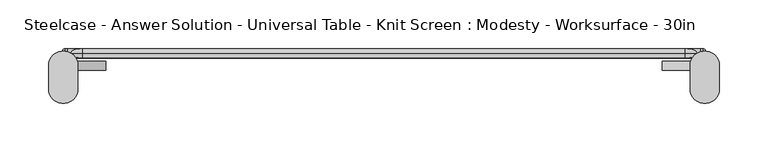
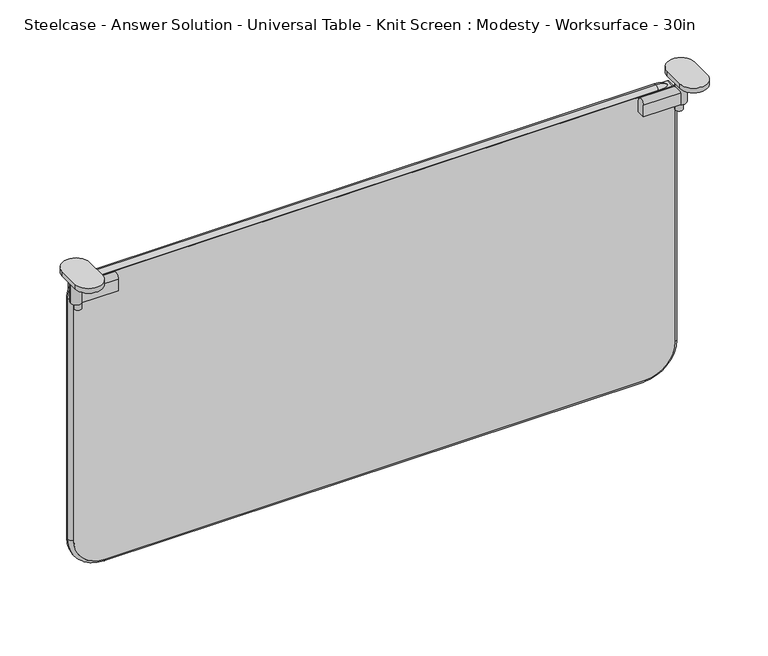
"""IFC4 building model written with IfcOpenShell, lengths in millimetres: furniture geometry, Steelcase - Answer Solution - Universal Table - Knit Screen : Modesty - Worksurface - 30in."""

import ifcopenshell
import ifcopenshell.guid

model = None  # the IFC model being written
_history = None  # IfcOwnerHistory: only IFC2X3 demands one
_inside = {}  # id of a spatial element -> (the spatial element, [elements in it])
_under = {}  # id of a project, library or spatial element -> (it, [spatial elements below it])
_declared = {}  # id of a project -> (the project, [libraries it declares])
_typed = {}  # id of a type object -> (the type object, [elements of that type])
_made_of = {}  # id of a material, layer set ... -> (it, [elements and type objects made of it])


def new_model(schema):
    """Start an empty IFC model of exactly this schema.

    Asked for "IFC4X3", IfcOpenShell would pick the latest addendum, in which some entities
    have other attributes; the version numbers below select the first issue.
    IFC2X3 requires an IfcOwnerHistory on every rooted entity: one is made here for all.
    """
    global model, _history
    if schema == "IFC4X3":
        model = ifcopenshell.file(schema_version=(4, 3, 0, 0))
    else:
        model = ifcopenshell.file(schema=schema)
    _inside.clear()
    _under.clear()
    _declared.clear()
    _typed.clear()
    _made_of.clear()
    _history = None
    if model.schema == "IFC2X3":
        org = make("IfcOrganization", Name="unknown")
        user = make(
            "IfcPersonAndOrganization",
            ThePerson=make("IfcPerson", FamilyName="unknown"),
            TheOrganization=org,
        )
        app = make(
            "IfcApplication",
            ApplicationDeveloper=org,
            Version="unknown",
            ApplicationFullName="unknown",
            ApplicationIdentifier="unknown",
        )
        _history = make(
            "IfcOwnerHistory",
            OwningUser=user,
            OwningApplication=app,
            ChangeAction="ADDED",
            CreationDate=0,
        )
    return model


def make(cls, **values):
    """One entity of the class cls with the attributes given. An attribute that is None is left unset."""
    return model.create_entity(
        cls, **{name: value for name, value in values.items() if value is not None}
    )


def rooted(cls, **values):
    """An entity with a GlobalId (a new one), such as an element, a storey or a relation."""
    return make(cls, GlobalId=ifcopenshell.guid.new(), OwnerHistory=_history, **values)


def si_unit(unit_type, name, prefix=None):
    """IfcSIUnit, for example si_unit("LENGTHUNIT", "METRE", prefix="MILLI")."""
    return make("IfcSIUnit", UnitType=unit_type, Prefix=prefix, Name=name)


def assignment(units):
    """IfcUnitAssignment: the units of a project."""
    return None if units is None else make("IfcUnitAssignment", Units=units)


def point(xyz):
    """IfcCartesianPoint."""
    return None if xyz is None else make("IfcCartesianPoint", Coordinates=xyz)


def direction(xyz):
    """IfcDirection."""
    return None if xyz is None else make("IfcDirection", DirectionRatios=xyz)


def frame(location, z_axis=None, x_axis=None):
    """IfcAxis2Placement3D, a coordinate frame: its origin and axes. An axis left out is left unset."""
    return make(
        "IfcAxis2Placement3D",
        Location=point(location),
        Axis=direction(z_axis),
        RefDirection=direction(x_axis),
    )


def frame_2d(location, x_axis=None):
    """IfcAxis2Placement2D, a coordinate frame in the plane: its origin and x axis."""
    return make(
        "IfcAxis2Placement2D", Location=point(location), RefDirection=direction(x_axis)
    )


def origin():
    """The frame at (0, 0, 0) with its axes left unset."""
    return frame((0.0, 0.0, 0.0))


def place(relative_to, where):
    """IfcLocalPlacement: puts the frame where relative to a parent placement (None: the world)."""
    return make(
        "IfcLocalPlacement", PlacementRelTo=relative_to, RelativePlacement=where
    )


def context(
    kind, dimensions, precision=None, world=None, true_north=None, identifier=None
):
    """IfcGeometricRepresentationContext, for example the 3D "Model" context."""
    return make(
        "IfcGeometricRepresentationContext",
        ContextIdentifier=identifier,
        ContextType=kind,
        CoordinateSpaceDimension=dimensions,
        Precision=precision,
        WorldCoordinateSystem=world,
        TrueNorth=true_north,
    )


def project(units=None, contexts=None):
    """IfcProject with its units and contexts."""
    return rooted(
        "IfcProject",
        Name="project",
        RepresentationContexts=contexts,
        UnitsInContext=assignment(units),
    )


def spatial(cls, under=None, at=None, **own):
    """A site, building, storey or space (cls), placed at a placement, below another one or the project."""
    s = rooted(cls, ObjectPlacement=at, **own)
    if under is not None:
        _under.setdefault(under.id(), (under, []))[1].append(s)
    return s


def polyline(points):
    """IfcPolyline through the points."""
    return make("IfcPolyline", Points=[point(p) for p in points])


def circle_curve(where, radius):
    """IfcCircle in the frame where."""
    return make("IfcCircle", Position=where, Radius=radius)


def ellipse_curve(where, semi_axis1, semi_axis2):
    """IfcEllipse in the frame where."""
    return make(
        "IfcEllipse", Position=where, SemiAxis1=semi_axis1, SemiAxis2=semi_axis2
    )


def trimmed(basis, trim1, trim2, sense, master):
    """IfcTrimmedCurve: the piece of a basis curve between two trims."""
    return make(
        "IfcTrimmedCurve",
        BasisCurve=basis,
        Trim1=trim1,
        Trim2=trim2,
        SenseAgreement=sense,
        MasterRepresentation=master,
    )


def segment(curve, same_sense, transition):
    """IfcCompositeCurveSegment."""
    return make(
        "IfcCompositeCurveSegment",
        Transition=transition,
        SameSense=same_sense,
        ParentCurve=curve,
    )


def composite_curve(segments, self_intersect=None):
    """IfcCompositeCurve: segments joined end to end."""
    return make("IfcCompositeCurve", Segments=segments, SelfIntersect=self_intersect)


def outline(outer, holes=None, kind="AREA"):
    """IfcArbitraryClosedProfileDef: a profile drawn as a closed curve; with holes, ...WithVoids."""
    if holes is None:
        return make("IfcArbitraryClosedProfileDef", ProfileType=kind, OuterCurve=outer)
    return make(
        "IfcArbitraryProfileDefWithVoids",
        ProfileType=kind,
        OuterCurve=outer,
        InnerCurves=holes,
    )


def extrude(swept, where, along, depth):
    """IfcExtrudedAreaSolid: the profile swept, set in the frame where, extruded along a direction by depth."""
    return make(
        "IfcExtrudedAreaSolid",
        SweptArea=swept,
        Position=where,
        ExtrudedDirection=direction(along),
        Depth=depth,
    )


def shape(context_of_items, identifier, shape_type, items):
    """IfcShapeRepresentation: the items that make up one representation, for example the "Body"."""
    return make(
        "IfcShapeRepresentation",
        ContextOfItems=context_of_items,
        RepresentationIdentifier=identifier,
        RepresentationType=shape_type,
        Items=items,
    )


def source(mapping_origin, context_of_items, identifier, shape_type, items):
    """IfcRepresentationMap: a shape defined once, which mapped items show again and again."""
    return make(
        "IfcRepresentationMap",
        MappingOrigin=mapping_origin,
        MappedRepresentation=shape(context_of_items, identifier, shape_type, items),
    )


def transform(
    local_origin,
    x_axis=None,
    y_axis=None,
    z_axis=None,
    scale=None,
    scale2=None,
    scale3=None,
    uniform=True,
):
    """IfcCartesianTransformationOperator3D, or its non-uniform kind. x_axis, y_axis, z_axis: its Axis1, 2, 3."""
    if uniform:
        return make(
            "IfcCartesianTransformationOperator3D",
            Axis1=direction(x_axis),
            Axis2=direction(y_axis),
            LocalOrigin=point(local_origin),
            Scale=scale,
            Axis3=direction(z_axis),
        )
    return make(
        "IfcCartesianTransformationOperator3DnonUniform",
        Axis1=direction(x_axis),
        Axis2=direction(y_axis),
        LocalOrigin=point(local_origin),
        Scale=scale,
        Axis3=direction(z_axis),
        Scale2=scale2,
        Scale3=scale3,
    )


def mapped(mapping_source, mapping_target):
    """IfcMappedItem: shows the shape of a source again, moved by a transform."""
    return make(
        "IfcMappedItem", MappingSource=mapping_source, MappingTarget=mapping_target
    )


def made_of(thing, what):
    """Note that an element or type object is made of a material, layer set ...; save() writes the relation."""
    if what is not None:
        _made_of.setdefault(what.id(), (what, []))[1].append(thing)
    return thing


def element(
    cls,
    number,
    at=None,
    inside=None,
    cuts=None,
    type_object=None,
    material=None,
    context=None,
    identifier="Body",
    shape_type=None,
    held_by="IfcProductDefinitionShape",
    body=None,
    shapes=None,
    **own,
):
    """One element of the class cls, such as IfcWall. Its Tag is "e" and its number.

    at: its placement. inside: the storey or other place that contains it. cuts: it is an
    opening in that element (IfcRelVoidsElement). A single representation is given by context,
    identifier, shape_type and body (its items); several are given by shapes. held_by: the class
    of the entity that holds the representations. save() writes the other relations.
    """
    e = rooted(cls, Tag="e%d" % number, ObjectPlacement=at, **own)
    if body is not None:
        shapes = [shape(context, identifier, shape_type, body)]
    if shapes is not None:
        e.Representation = make(held_by, Representations=shapes)
    if inside is not None:
        _inside.setdefault(inside.id(), (inside, []))[1].append(e)
    if cuts is not None:
        rooted(
            "IfcRelVoidsElement", RelatingBuildingElement=cuts, RelatedOpeningElement=e
        )
    if type_object is not None:
        _typed.setdefault(type_object.id(), (type_object, []))[1].append(e)
    return made_of(e, material)


def aggregate(whole, parts):
    """IfcRelAggregates: a whole, such as a stair, and the parts it consists of."""
    return rooted("IfcRelAggregates", RelatingObject=whole, RelatedObjects=parts)


def save(model, path):
    """Write the relations noted so far, then the file.

    IfcRelAggregates (storeys below a building ...), IfcRelContainedInSpatialStructure (elements
    in a storey), IfcRelDefinesByType, IfcRelAssociatesMaterial and IfcRelDeclares: one each for
    every whole, place, type object, material and project.
    """
    for whole, parts in _under.values():
        aggregate(whole, parts)
    for where, things in _inside.values():
        rooted(
            "IfcRelContainedInSpatialStructure",
            RelatedElements=things,
            RelatingStructure=where,
        )
    for kind, things in _typed.values():
        rooted("IfcRelDefinesByType", RelatedObjects=things, RelatingType=kind)
    for what, things in _made_of.values():
        rooted("IfcRelAssociatesMaterial", RelatedObjects=things, RelatingMaterial=what)
    for by, libraries in _declared.values():
        rooted("IfcRelDeclares", RelatingContext=by, RelatedDefinitions=libraries)
    model.write(path)


def plane_surface(at):
    """IfcPlane: the flat surface through the origin of the frame at, square to its z axis."""
    return make("IfcPlane", Position=at)


def cylinder_surface(at, radius):
    """IfcCylindricalSurface: all points at the distance radius from the z axis of the frame at."""
    return make("IfcCylindricalSurface", Position=at, Radius=radius)


def revolved_surface(curve, axis_point, axis_direction):
    """IfcSurfaceOfRevolution: the curve turned about the line through axis_point along axis_direction."""
    return make(
        "IfcSurfaceOfRevolution",
        SweptCurve=make("IfcArbitraryOpenProfileDef", ProfileType="CURVE", Curve=curve),
        AxisPosition=make("IfcAxis1Placement", Location=point(axis_point), Axis=direction(axis_direction)),
    )


def advanced_brep(points, edges, surfaces, faces):
    """IfcAdvancedBrep: a solid bounded by faces that lie on surfaces and meet in shared edges.

    An edge is (start, end): straight between two places in points (the first is 0);
    or (start, end, curve); or (start, end, curve, False) where it runs against its curve.
    A face is (place in surfaces, loops), or (place, loops, False) where it looks against
    its surface's normal. A loop lists edges by number (the first is 1), with a minus sign
    where the edge is run from its end to its start. The first loop is the outer one.
    """
    corners = [point(p) for p in points]
    vertices = [make("IfcVertexPoint", VertexGeometry=c) for c in corners]
    made = []
    for start, end, *more in edges:
        made.append(
            make(
                "IfcEdgeCurve",
                EdgeStart=vertices[start],
                EdgeEnd=vertices[end],
                EdgeGeometry=more[0] if more else make("IfcPolyline", Points=[corners[start], corners[end]]),
                SameSense=more[1] if len(more) > 1 else True,
            )
        )
    hull = []
    for where, loops, *sense in faces:
        bounds = []
        for j, loop in enumerate(loops):
            ring = [make("IfcOrientedEdge", EdgeElement=made[abs(k) - 1], Orientation=k > 0) for k in loop]
            bounds.append(
                make(
                    "IfcFaceOuterBound" if j == 0 else "IfcFaceBound",
                    Bound=make("IfcEdgeLoop", EdgeList=ring),
                    Orientation=True,
                )
            )
        hull.append(make("IfcAdvancedFace", Bounds=bounds, FaceSurface=surfaces[where], SameSense=sense[0] if sense else True))
    return make("IfcAdvancedBrep", Outer=make("IfcClosedShell", CfsFaces=hull))


def steelcase_answer_solution_universal_table_knit_screen_be4d7a65(model_context):
    return source(origin(), model_context, "Body", "SolidModel", [
        extrude(outline(composite_curve([segment(polyline([(-29.128946, 652.4216837), (-29.128946, 665.7829841)]), True, "CONTINUOUS"), segment(trimmed(circle_curve(frame_2d((-24.4350465, 665.7829841)), 4.6938995), [point((-29.128946, 665.7829841))], [point((-19.7411469, 665.7829841))], False, "CARTESIAN"), True, "CONTINUOUS"), segment(polyline([(-19.7411469, 665.7829841), (-19.7411469, 652.4216837), (-29.128946, 652.4216837)]), True, "CONTINUOUS")], self_intersect=False)), frame((664.2167228, 0.0, 0.0), z_axis=(1.0, 0.0, 0.0), x_axis=(0.0, 1.0, 0.0)), (0.0, 0.0, 1.0), 43.5285515),
        extrude(outline(composite_curve([segment(trimmed(circle_curve(frame_2d((705.8143327, -24.4352196)), 3.96875), [point((709.7830827, -24.4352196))], [point((701.8455827, -24.4352196))], False, "CARTESIAN"), True, "CONTINUOUS"), segment(trimmed(circle_curve(frame_2d((705.8143327, -24.4352196)), 3.96875), [point((701.8455827, -24.4352196))], [point((709.7830827, -24.4352196))], False, "CARTESIAN"), True, "CONTINUOUS")], self_intersect=False)), frame((0.0, 0.0, 644.3415626), z_axis=(0.0, 0.0, 1.0), x_axis=(1.0, 0.0, 0.0)), (0.0, 0.0, 1.0), 8.0801211),
        extrude(outline(composite_curve([segment(trimmed(circle_curve(frame_2d((707.7452743, -24.4352196)), 5.8800133), [point((713.6252876, -24.4352196))], [point((701.865261, -24.4352196))], False, "CARTESIAN"), True, "CONTINUOUS"), segment(trimmed(circle_curve(frame_2d((707.7452743, -24.4352196)), 5.8800133), [point((701.865261, -24.4352196))], [point((713.6252876, -24.4352196))], False, "CARTESIAN"), True, "CONTINUOUS")], self_intersect=False)), frame((0.0, 0.0, 652.4216837), z_axis=(0.0, 0.0, 1.0), x_axis=(1.0, 0.0, 0.0)), (0.0, 0.0, 1.0), 34.3007611),
        extrude(outline(composite_curve([segment(polyline([(722.801332, -24.6349615), (722.801332, -48.0866189)]), True, "CONTINUOUS"), segment(trimmed(circle_curve(frame_2d((707.745565, -48.0866189)), 15.0557671), [point((722.801332, -48.0866189))], [point((692.6897979, -48.0866189))], False, "CARTESIAN"), True, "CONTINUOUS"), segment(polyline([(692.6897979, -48.0866189), (692.6897979, -24.6349615)]), True, "CONTINUOUS"), segment(trimmed(circle_curve(frame_2d((707.745565, -24.6349615)), 15.0557671), [point((692.6897979, -24.6349615))], [point((722.801332, -24.6349615))], False, "CARTESIAN"), True, "CONTINUOUS")], self_intersect=False)), frame((0.0, 0.0, 686.7224448), z_axis=(0.0, 0.0, 1.0), x_axis=(1.0, 0.0, 0.0)), (0.0, 0.0, 1.0), 5.4275552),
        extrude(outline(composite_curve([segment(polyline([(-29.128946, 652.4216837), (-29.128946, 665.7829841)]), True, "CONTINUOUS"), segment(trimmed(circle_curve(frame_2d((-24.4350465, 665.7829841)), 4.6938995), [point((-29.128946, 665.7829841))], [point((-19.7411469, 665.7829841))], False, "CARTESIAN"), True, "CONTINUOUS"), segment(polyline([(-19.7411469, 665.7829841), (-19.7411469, 652.4216837), (-29.128946, 652.4216837)]), True, "CONTINUOUS")], self_intersect=False)), frame((47.6108911, 0.0, 0.0), z_axis=(1.0, 0.0, 0.0), x_axis=(0.0, 1.0, 0.0)), (0.0, 0.0, 1.0), 43.5285515),
        extrude(outline(composite_curve([segment(trimmed(circle_curve(frame_2d((49.5418327, -24.4352196)), 3.96875), [point((45.5730827, -24.4352196))], [point((53.5105827, -24.4352196))], False, "CARTESIAN"), True, "CONTINUOUS"), segment(trimmed(circle_curve(frame_2d((49.5418327, -24.4352196)), 3.96875), [point((53.5105827, -24.4352196))], [point((45.5730827, -24.4352196))], False, "CARTESIAN"), True, "CONTINUOUS")], self_intersect=False)), frame((0.0, 0.0, 644.3415626), z_axis=(0.0, 0.0, 1.0), x_axis=(1.0, 0.0, 0.0)), (0.0, 0.0, 1.0), 8.0801211),
        extrude(outline(composite_curve([segment(trimmed(circle_curve(frame_2d((47.6108911, -24.4352196)), 5.8800133), [point((41.7308778, -24.4352196))], [point((53.4909043, -24.4352196))], False, "CARTESIAN"), True, "CONTINUOUS"), segment(trimmed(circle_curve(frame_2d((47.6108911, -24.4352196)), 5.8800133), [point((53.4909043, -24.4352196))], [point((41.7308778, -24.4352196))], False, "CARTESIAN"), True, "CONTINUOUS")], self_intersect=False)), frame((0.0, 0.0, 652.4216837), z_axis=(0.0, 0.0, 1.0), x_axis=(1.0, 0.0, 0.0)), (0.0, 0.0, 1.0), 34.3007611),
        extrude(outline(composite_curve([segment(trimmed(circle_curve(frame_2d((47.6106004, -24.6349615)), 15.0557671), [point((32.5548333, -24.6349615))], [point((62.6663674, -24.6349615))], False, "CARTESIAN"), True, "CONTINUOUS"), segment(polyline([(62.6663674, -24.6349615), (62.6663674, -48.0866189)]), True, "CONTINUOUS"), segment(trimmed(circle_curve(frame_2d((47.6106004, -48.0866189)), 15.0557671), [point((62.6663674, -48.0866189))], [point((32.5548333, -48.0866189))], False, "CARTESIAN"), True, "CONTINUOUS"), segment(polyline([(32.5548333, -48.0866189), (32.5548333, -24.6349615)]), True, "CONTINUOUS")], self_intersect=False)), frame((0.0, 0.0, 686.7224448), z_axis=(0.0, 0.0, 1.0), x_axis=(1.0, 0.0, 0.0)), (0.0, 0.0, 1.0), 5.4275552),
        extrude(outline(composite_curve([segment(trimmed(circle_curve(frame_2d((370.6234529, 672.7969049)), 33.0004615), [point((337.6229913, 672.7969049))], [point((370.6234529, 705.7973664))], False, "CARTESIAN"), True, "CONTINUOUS"), segment(polyline([(370.6234529, 705.7973664), (663.9643507, 705.7973664)]), True, "CONTINUOUS"), segment(trimmed(circle_curve(frame_2d((663.9643507, 702.9924906)), 2.8048758), [point((663.9643507, 705.7973664))], [point((666.7692266, 702.9924906))], False, "CARTESIAN"), True, "CONTINUOUS"), segment(polyline([(666.7692266, 702.9924906), (666.7692266, 51.8743664)]), True, "CONTINUOUS"), segment(trimmed(circle_curve(frame_2d((664.4536591, 51.8743664)), 2.3155675), [point((666.7692266, 51.8743664))], [point((664.4536591, 49.5587989))], False, "CARTESIAN"), True, "CONTINUOUS"), segment(polyline([(664.4536591, 49.5587989), (371.5400738, 49.5587989)]), True, "CONTINUOUS"), segment(trimmed(circle_curve(frame_2d((371.5400738, 83.4758814)), 33.9170825), [point((371.5400738, 49.5587989))], [point((337.6229913, 83.4758814))], False, "CARTESIAN"), True, "CONTINUOUS"), segment(polyline([(337.6229913, 83.4758814), (337.6229913, 672.7969049)]), True, "CONTINUOUS")], self_intersect=False)), frame((0.0, -16.5783031, 0.0), z_axis=(0.0, 1.0, 0.0), x_axis=(0.0, 0.0, 1.0)), (0.0, 0.0, 1.0), 9.6878455),
        advanced_brep(
        [(45.5730839, -11.7343804, 649.3406591), (66.9873664, -11.7343804, 670.7549416), (66.9873664, -6.8904577, 666.7692266), (49.5587989, -6.8904577, 649.3406591), (49.5587989, -16.5783031, 649.3406591), (66.9873664, -16.5783031, 666.7692266), (49.5587989, -6.8904577, 371.5400738), (45.5730839, -11.7343804, 371.5400738), (49.5587989, -16.5783031, 371.5400738), (83.4758814, -11.7343804, 333.6372763), (83.4758814, -6.8904577, 337.6229913), (83.4758814, -16.5783031, 337.6229913), (672.7969049, -6.8904577, 337.6229913), (672.7969049, -11.7343804, 333.6372763), (672.7969049, -16.5783031, 337.6229913), (709.7830815, -11.7343804, 370.6234529), (705.7973664, -6.8904577, 370.6234529), (705.7973664, -16.5783031, 370.6234529), (705.7973664, -6.8904577, 648.8513507), (709.7830815, -11.7343804, 648.8513507), (705.7973664, -16.5783031, 648.8513507), (687.8794906, -11.7343804, 670.7549416), (687.8794906, -6.8904577, 666.7692266), (687.8794906, -16.5783031, 666.7692266)],
        [
            (0, 1, circle_curve(frame((66.9873664, -11.7343804, 649.3406591), z_axis=(0.0, 1.0, 0.0), x_axis=(0.0, 0.0, 1.0)), 21.4142825)),
            (1, 2, circle_curve(frame((66.9873664, -11.7343804, 665.8186238), z_axis=(-1.0, 0.0, 0.0), x_axis=(0.0, 0.0, 1.0)), 4.9363178)),
            (2, 3, circle_curve(frame((66.9873664, -6.8904577, 649.3406591), z_axis=(0.0, -1.0, 0.0), x_axis=(0.0, 0.0, 1.0)), 17.4285675)),
            (3, 0, circle_curve(frame((50.5094016, -11.7343804, 649.3406591), z_axis=(0.0, 0.0, 1.0), x_axis=(-1.0, 0.0, 0.0)), 4.9363178)),
            (4, 5, circle_curve(frame((66.9873664, -16.5783031, 649.3406591), z_axis=(0.0, 1.0, 0.0), x_axis=(0.0, 0.0, 1.0)), 17.4285675)),
            (5, 1, circle_curve(frame((66.9873664, -11.7343804, 665.8186238), z_axis=(-1.0, 0.0, 0.0), x_axis=(0.0, 0.0, 1.0)), 4.9363178)),
            (0, 4, circle_curve(frame((50.5094016, -11.7343804, 649.3406591), z_axis=(0.0, 0.0, 1.0), x_axis=(-1.0, 0.0, 0.0)), 4.9363178)),
            (2, 5),
            (4, 3),
            (3, 6),
            (6, 7, circle_curve(frame((50.5094016, -11.7343804, 371.5400738), z_axis=(0.0, 0.0, 1.0), x_axis=(-1.0, 0.0, 0.0)), 4.9363178)),
            (7, 0),
            (7, 8, circle_curve(frame((50.5094016, -11.7343804, 371.5400738), z_axis=(0.0, 0.0, 1.0), x_axis=(-1.0, 0.0, 0.0)), 4.9363178)),
            (8, 4),
            (8, 6),
            (9, 7, circle_curve(frame((83.4758814, -11.7343804, 371.5400738), z_axis=(0.0, 1.0, 0.0), x_axis=(-1.0, 0.0, 0.0)), 37.9027975)),
            (6, 10, circle_curve(frame((83.4758814, -6.8904577, 371.5400738), z_axis=(0.0, -1.0, 0.0), x_axis=(-1.0, 0.0, 0.0)), 33.9170825)),
            (10, 9, circle_curve(frame((83.4758814, -11.7343804, 338.573594), z_axis=(-1.0, 0.0, 0.0), x_axis=(0.0, 0.0, -1.0)), 4.9363178)),
            (11, 8, circle_curve(frame((83.4758814, -16.5783031, 371.5400738), z_axis=(0.0, 1.0, 0.0), x_axis=(-1.0, 0.0, 0.0)), 33.9170825)),
            (9, 11, circle_curve(frame((83.4758814, -11.7343804, 338.573594), z_axis=(-1.0, 0.0, 0.0), x_axis=(0.0, 0.0, -1.0)), 4.9363178)),
            (11, 10),
            (10, 12),
            (12, 13, circle_curve(frame((672.7969049, -11.7343804, 338.573594), z_axis=(-1.0, 0.0, 0.0), x_axis=(0.0, 0.0, -1.0)), 4.9363178)),
            (13, 9),
            (13, 14, circle_curve(frame((672.7969049, -11.7343804, 338.573594), z_axis=(-1.0, 0.0, 0.0), x_axis=(0.0, 0.0, -1.0)), 4.9363178)),
            (14, 11),
            (14, 12),
            (15, 13, circle_curve(frame((672.7969049, -11.7343804, 370.6234529), z_axis=(0.0, 1.0, 0.0), x_axis=(0.0, 0.0, -1.0)), 36.9861766)),
            (12, 16, circle_curve(frame((672.7969049, -6.8904577, 370.6234529), z_axis=(0.0, -1.0, 0.0), x_axis=(0.0, 0.0, -1.0)), 33.0004615)),
            (16, 15, circle_curve(frame((704.8467637, -11.7343804, 370.6234529), z_axis=(0.0, 0.0, -1.0), x_axis=(1.0, 0.0, 0.0)), 4.9363178)),
            (17, 14, circle_curve(frame((672.7969049, -16.5783031, 370.6234529), z_axis=(0.0, 1.0, 0.0), x_axis=(0.0, 0.0, -1.0)), 33.0004615)),
            (15, 17, circle_curve(frame((704.8467637, -11.7343804, 370.6234529), z_axis=(0.0, 0.0, -1.0), x_axis=(1.0, 0.0, 0.0)), 4.9363178)),
            (17, 16),
            (16, 18),
            (18, 19, circle_curve(frame((704.8467637, -11.7343804, 648.8513507), z_axis=(0.0, 0.0, -1.0), x_axis=(1.0, 0.0, 0.0)), 4.9363178)),
            (19, 15),
            (19, 20, circle_curve(frame((704.8467637, -11.7343804, 648.8513507), z_axis=(0.0, 0.0, -1.0), x_axis=(1.0, 0.0, 0.0)), 4.9363178)),
            (20, 17),
            (20, 18),
            (21, 19, circle_curve(frame((687.8794906, -11.7343804, 648.8513507), z_axis=(0.0, 1.0, 0.0), x_axis=(1.0, 0.0, 0.0)), 21.9035909)),
            (18, 22, circle_curve(frame((687.8794906, -6.8904577, 648.8513507), z_axis=(0.0, -1.0, 0.0), x_axis=(1.0, 0.0, 0.0)), 17.9178758)),
            (22, 21, circle_curve(frame((687.8794906, -11.7343804, 665.8186238), z_axis=(1.0, 0.0, 0.0), x_axis=(0.0, 0.0, 1.0)), 4.9363178)),
            (23, 20, circle_curve(frame((687.8794906, -16.5783031, 648.8513507), z_axis=(0.0, 1.0, 0.0), x_axis=(1.0, 0.0, 0.0)), 17.9178758)),
            (21, 23, circle_curve(frame((687.8794906, -11.7343804, 665.8186238), z_axis=(1.0, 0.0, 0.0), x_axis=(0.0, 0.0, 1.0)), 4.9363178)),
            (23, 22),
            (22, 2),
            (1, 21),
            (5, 23),
        ],
        [
            revolved_surface(trimmed(ellipse_curve(frame((66.9873664, -11.7343804, 665.8186238), z_axis=(1.0, 0.0, 0.0), x_axis=(0.0, 0.0, 1.0)), 4.9363178, 4.9363178), [point((66.9873664, -6.8904577, 666.7692266))], [point((66.9873664, -11.7343804, 670.7549416))], True, "CARTESIAN"), (66.9873664, -11.7343804, 649.3406591), (0.0, -1.0, 0.0)),
            revolved_surface(trimmed(ellipse_curve(frame((66.9873664, -11.7343804, 665.8186238), z_axis=(1.0, 0.0, 0.0), x_axis=(0.0, 0.0, 1.0)), 4.9363178, 4.9363178), [point((66.9873664, -11.7343804, 670.7549416))], [point((66.9873664, -16.5783031, 666.7692266))], True, "CARTESIAN"), (66.9873664, -11.7343804, 649.3406591), (0.0, -1.0, 0.0)),
            revolved_surface(polyline([(66.9873664, -16.5783031, 666.7692266), (66.9873664, -6.8904577, 666.7692266)]), (66.9873664, -11.7343804, 649.3406591), (0.0, -1.0, 0.0)),
            cylinder_surface(frame((50.5094016, -11.7343804, 649.3406591), z_axis=(0.0, 0.0, 1.0), x_axis=(-1.0, 0.0, 0.0)), 4.9363178),
            plane_surface(frame((49.5587989, -16.5783031, 649.3406591), z_axis=(1.0, 0.0, 0.0), x_axis=(0.0, 0.0, -1.0))),
            revolved_surface(trimmed(ellipse_curve(frame((50.5094016, -11.7343804, 371.5400738), z_axis=(0.0, 0.0, 1.0), x_axis=(-1.0, 0.0, 0.0)), 4.9363178, 4.9363178), [point((49.5587989, -6.8904577, 371.5400738))], [point((45.5730839, -11.7343804, 371.5400738))], True, "CARTESIAN"), (83.4758814, -11.7343804, 371.5400738), (0.0, -1.0, 0.0)),
            revolved_surface(trimmed(ellipse_curve(frame((50.5094016, -11.7343804, 371.5400738), z_axis=(0.0, 0.0, 1.0), x_axis=(-1.0, 0.0, 0.0)), 4.9363178, 4.9363178), [point((45.5730839, -11.7343804, 371.5400738))], [point((49.5587989, -16.5783031, 371.5400738))], True, "CARTESIAN"), (83.4758814, -11.7343804, 371.5400738), (0.0, -1.0, 0.0)),
            revolved_surface(polyline([(49.558798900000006, -16.5783031, 371.5400738), (49.558798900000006, -6.8904577, 371.5400738)]), (83.4758814, -11.7343804, 371.5400738), (0.0, -1.0, 0.0)),
            cylinder_surface(frame((83.4758814, -11.7343804, 338.573594), z_axis=(-1.0, 0.0, 0.0), x_axis=(0.0, 0.0, -1.0)), 4.9363178),
            plane_surface(frame((83.4758814, -16.5783031, 337.6229913), z_axis=(0.0, 0.0, 1.0), x_axis=(1.0, 0.0, 0.0))),
            revolved_surface(trimmed(ellipse_curve(frame((672.7969049, -11.7343804, 338.573594), z_axis=(-1.0, 0.0, 0.0), x_axis=(0.0, 0.0, -1.0)), 4.9363178, 4.9363178), [point((672.7969049, -6.8904577, 337.6229913))], [point((672.7969049, -11.7343804, 333.6372763))], True, "CARTESIAN"), (672.7969049, -11.7343804, 370.6234529), (0.0, -1.0, 0.0)),
            revolved_surface(trimmed(ellipse_curve(frame((672.7969049, -11.7343804, 338.573594), z_axis=(-1.0, 0.0, 0.0), x_axis=(0.0, 0.0, -1.0)), 4.9363178, 4.9363178), [point((672.7969049, -11.7343804, 333.6372763))], [point((672.7969049, -16.5783031, 337.6229913))], True, "CARTESIAN"), (672.7969049, -11.7343804, 370.6234529), (0.0, -1.0, 0.0)),
            revolved_surface(polyline([(672.7969049, -16.5783031, 337.62299140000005), (672.7969049, -6.8904577, 337.62299140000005)]), (672.7969049, -11.7343804, 370.6234529), (0.0, -1.0, 0.0)),
            cylinder_surface(frame((704.8467637, -11.7343804, 370.6234529), z_axis=(0.0, 0.0, -1.0), x_axis=(1.0, 0.0, 0.0)), 4.9363178),
            plane_surface(frame((705.7973664, -16.5783031, 370.6234529), z_axis=(-1.0, 0.0, 0.0), x_axis=(0.0, 0.0, 1.0))),
            revolved_surface(trimmed(ellipse_curve(frame((704.8467637, -11.7343804, 648.8513507), z_axis=(0.0, 0.0, -1.0), x_axis=(1.0, 0.0, 0.0)), 4.9363178, 4.9363178), [point((705.7973664, -6.8904577, 648.8513507))], [point((709.7830815, -11.7343804, 648.8513507))], True, "CARTESIAN"), (687.8794906, -11.7343804, 648.8513507), (0.0, -1.0, 0.0)),
            revolved_surface(trimmed(ellipse_curve(frame((704.8467637, -11.7343804, 648.8513507), z_axis=(0.0, 0.0, -1.0), x_axis=(1.0, 0.0, 0.0)), 4.9363178, 4.9363178), [point((709.7830815, -11.7343804, 648.8513507))], [point((705.7973664, -16.5783031, 648.8513507))], True, "CARTESIAN"), (687.8794906, -11.7343804, 648.8513507), (0.0, -1.0, 0.0)),
            revolved_surface(polyline([(705.7973664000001, -16.5783031, 648.8513507), (705.7973664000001, -6.8904577, 648.8513507)]), (687.8794906, -11.7343804, 648.8513507), (0.0, -1.0, 0.0)),
            cylinder_surface(frame((687.8794906, -11.7343804, 665.8186238), z_axis=(1.0, 0.0, 0.0), x_axis=(0.0, 0.0, 1.0)), 4.9363178),
            plane_surface(frame((687.8794906, -16.5783031, 666.7692266), z_axis=(0.0, 0.0, -1.0), x_axis=(-1.0, 0.0, 0.0))),
        ],
        [
            (0, [[1, 2, 3, 4]]),
            (1, [[5, 6, -1, 7]]),
            (2, [[-3, 8, -5, 9]]),
            (3, [[-4, 10, 11, 12]]),
            (3, [[-7, -12, 13, 14]]),
            (4, [[-9, -14, 15, -10]]),
            (5, [[16, -11, 17, 18]]),
            (6, [[19, -13, -16, 20]]),
            (7, [[-17, -15, -19, 21]]),
            (8, [[-18, 22, 23, 24]]),
            (8, [[-20, -24, 25, 26]]),
            (9, [[-21, -26, 27, -22]]),
            (10, [[28, -23, 29, 30]]),
            (11, [[31, -25, -28, 32]]),
            (12, [[-29, -27, -31, 33]]),
            (13, [[-30, 34, 35, 36]]),
            (13, [[-32, -36, 37, 38]]),
            (14, [[-33, -38, 39, -34]]),
            (15, [[40, -35, 41, 42]]),
            (16, [[43, -37, -40, 44]]),
            (17, [[-41, -39, -43, 45]]),
            (18, [[-42, 46, -2, 47]]),
            (18, [[-44, -47, -6, 48]]),
            (19, [[-45, -48, -8, -46]]),
        ],
    ),
    ])


if __name__ == "__main__":
    model = new_model("IFC4")
    model_context = context("Model", 3, world=origin())
    ifc_project = project(units=[si_unit("LENGTHUNIT", "METRE", prefix="MILLI")], contexts=[model_context])
    site = spatial("IfcSite", under=ifc_project)
    building = spatial("IfcBuilding", under=site)
    placement = place(None, origin())
    steelcase_answer_solution_universal_table_knit_screen_shape = steelcase_answer_solution_universal_table_knit_screen_be4d7a65(model_context)
    element("IfcFurniture", 1, ObjectType="Steelcase - Answer Solution - Universal Table - Knit Screen : Modesty - Worksurface - 30in", at=placement, inside=building, context=model_context, shape_type="MappedRepresentation", body=[
        mapped(steelcase_answer_solution_universal_table_knit_screen_shape, transform((0.0, 0.0, 0.0), x_axis=(1.0, 0.0, 0.0), y_axis=(0.0, 1.0, 0.0), z_axis=(0.0, 0.0, 1.0))),
    ])
    save(model, "model.ifc")
